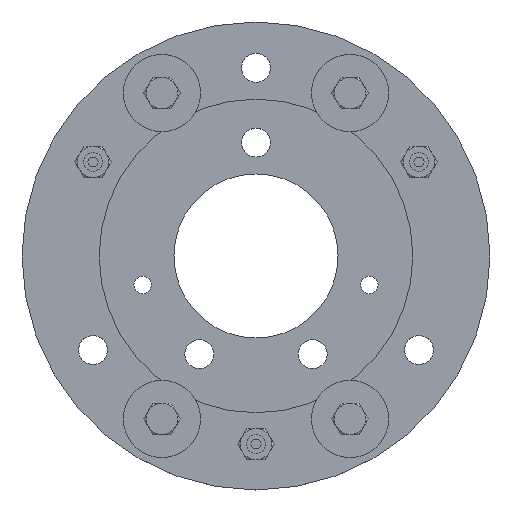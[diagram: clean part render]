
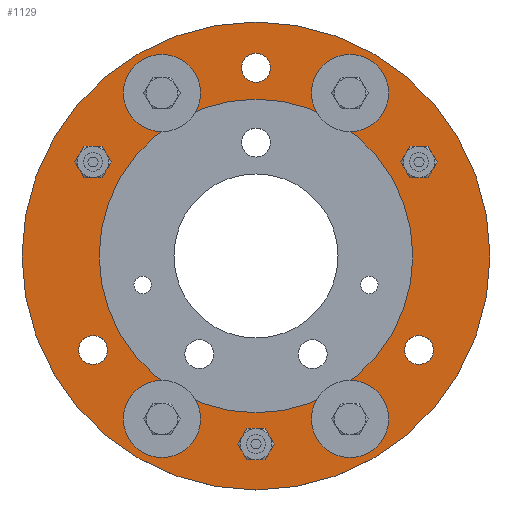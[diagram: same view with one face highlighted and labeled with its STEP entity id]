
A CAD part, top view. The second image highlights one B-rep face of the part: STEP entity #1129.
In plain terms, the highlighted planar face has unit normal (0, 0, 1).
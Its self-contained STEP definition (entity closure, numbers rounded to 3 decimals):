
#611=FACE_BOUND('',#1732,.T.);
#612=FACE_BOUND('',#1733,.T.);
#613=FACE_BOUND('',#1734,.T.);
#614=FACE_BOUND('',#1735,.T.);
#615=FACE_BOUND('',#1736,.T.);
#616=FACE_BOUND('',#1737,.T.);
#617=FACE_BOUND('',#1738,.T.);
#618=FACE_BOUND('',#1739,.T.);
#619=FACE_BOUND('',#1740,.T.);
#620=FACE_BOUND('',#1741,.T.);
#621=FACE_BOUND('',#1742,.T.);
#622=FACE_BOUND('',#1743,.T.);
#862=CIRCLE('',#4202,97.);
#864=CIRCLE('',#4205,60.);
#875=CIRCLE('',#4218,4.);
#876=CIRCLE('',#4219,4.);
#877=CIRCLE('',#4220,4.);
#878=CIRCLE('',#4221,4.);
#879=CIRCLE('',#4222,4.);
#880=CIRCLE('',#4223,4.);
#881=CIRCLE('',#4224,4.);
#882=CIRCLE('',#4225,6.);
#883=CIRCLE('',#4226,6.);
#884=CIRCLE('',#4227,6.);
#1129=ADVANCED_FACE('',(#611,#612,#613,#614,#615,#616,#617,#618,#619,#620,
#621,#622),#1304,.T.);
#1304=PLANE('',#4228);
#1732=EDGE_LOOP('',(#2766));
#1733=EDGE_LOOP('',(#2767));
#1734=EDGE_LOOP('',(#2768));
#1735=EDGE_LOOP('',(#2769));
#1736=EDGE_LOOP('',(#2770));
#1737=EDGE_LOOP('',(#2771));
#1738=EDGE_LOOP('',(#2772));
#1739=EDGE_LOOP('',(#2773));
#1740=EDGE_LOOP('',(#2774));
#1741=EDGE_LOOP('',(#2775));
#1742=EDGE_LOOP('',(#2776));
#1743=EDGE_LOOP('',(#2777));
#2766=ORIENTED_EDGE('',*,*,#3663,.F.);
#2767=ORIENTED_EDGE('',*,*,#3664,.F.);
#2768=ORIENTED_EDGE('',*,*,#3665,.F.);
#2769=ORIENTED_EDGE('',*,*,#3666,.F.);
#2770=ORIENTED_EDGE('',*,*,#3667,.F.);
#2771=ORIENTED_EDGE('',*,*,#3668,.F.);
#2772=ORIENTED_EDGE('',*,*,#3669,.F.);
#2773=ORIENTED_EDGE('',*,*,#3670,.F.);
#2774=ORIENTED_EDGE('',*,*,#3671,.F.);
#2775=ORIENTED_EDGE('',*,*,#3672,.F.);
#2776=ORIENTED_EDGE('',*,*,#3650,.T.);
#2777=ORIENTED_EDGE('',*,*,#3652,.F.);
#3231=VERTEX_POINT('',#6425);
#3233=VERTEX_POINT('',#6430);
#3244=VERTEX_POINT('',#6454);
#3245=VERTEX_POINT('',#6456);
#3246=VERTEX_POINT('',#6458);
#3247=VERTEX_POINT('',#6460);
#3248=VERTEX_POINT('',#6462);
#3249=VERTEX_POINT('',#6464);
#3250=VERTEX_POINT('',#6466);
#3251=VERTEX_POINT('',#6468);
#3252=VERTEX_POINT('',#6470);
#3253=VERTEX_POINT('',#6472);
#3650=EDGE_CURVE('',#3231,#3231,#862,.T.);
#3652=EDGE_CURVE('',#3233,#3233,#864,.T.);
#3663=EDGE_CURVE('',#3244,#3244,#875,.T.);
#3664=EDGE_CURVE('',#3245,#3245,#876,.T.);
#3665=EDGE_CURVE('',#3246,#3246,#877,.T.);
#3666=EDGE_CURVE('',#3247,#3247,#878,.T.);
#3667=EDGE_CURVE('',#3248,#3248,#879,.T.);
#3668=EDGE_CURVE('',#3249,#3249,#880,.T.);
#3669=EDGE_CURVE('',#3250,#3250,#881,.T.);
#3670=EDGE_CURVE('',#3251,#3251,#882,.T.);
#3671=EDGE_CURVE('',#3252,#3252,#883,.T.);
#3672=EDGE_CURVE('',#3253,#3253,#884,.T.);
#4202=AXIS2_PLACEMENT_3D('',#6424,#5067,#5068);
#4205=AXIS2_PLACEMENT_3D('',#6429,#5073,#5074);
#4218=AXIS2_PLACEMENT_3D('',#6453,#5099,#5100);
#4219=AXIS2_PLACEMENT_3D('',#6455,#5101,#5102);
#4220=AXIS2_PLACEMENT_3D('',#6457,#5103,#5104);
#4221=AXIS2_PLACEMENT_3D('',#6459,#5105,#5106);
#4222=AXIS2_PLACEMENT_3D('',#6461,#5107,#5108);
#4223=AXIS2_PLACEMENT_3D('',#6463,#5109,#5110);
#4224=AXIS2_PLACEMENT_3D('',#6465,#5111,#5112);
#4225=AXIS2_PLACEMENT_3D('',#6467,#5113,#5114);
#4226=AXIS2_PLACEMENT_3D('',#6469,#5115,#5116);
#4227=AXIS2_PLACEMENT_3D('',#6471,#5117,#5118);
#4228=AXIS2_PLACEMENT_3D('',#6473,#5119,#5120);
#5067=DIRECTION('',(0.,0.,1.));
#5068=DIRECTION('',(0.,1.,0.));
#5073=DIRECTION('',(0.,0.,1.));
#5074=DIRECTION('',(0.,1.,0.));
#5099=DIRECTION('',(0.,0.,1.));
#5100=DIRECTION('',(0.,1.,0.));
#5101=DIRECTION('',(0.,0.,1.));
#5102=DIRECTION('',(0.,1.,0.));
#5103=DIRECTION('',(0.,0.,1.));
#5104=DIRECTION('',(0.,1.,0.));
#5105=DIRECTION('',(0.,0.,1.));
#5106=DIRECTION('',(0.,1.,0.));
#5107=DIRECTION('',(0.,0.,1.));
#5108=DIRECTION('',(0.,1.,0.));
#5109=DIRECTION('',(0.,0.,1.));
#5110=DIRECTION('',(0.,1.,0.));
#5111=DIRECTION('',(0.,0.,1.));
#5112=DIRECTION('',(0.,1.,0.));
#5113=DIRECTION('',(0.,0.,1.));
#5114=DIRECTION('',(0.,1.,0.));
#5115=DIRECTION('',(0.,0.,1.));
#5116=DIRECTION('',(0.,1.,0.));
#5117=DIRECTION('',(0.,0.,1.));
#5118=DIRECTION('',(0.,1.,0.));
#5119=DIRECTION('',(0.,0.,1.));
#5120=DIRECTION('',(0.,1.,0.));
#6424=CARTESIAN_POINT('',(817.346,-60.21,-289.));
#6425=CARTESIAN_POINT('',(817.346,36.79,-289.));
#6429=CARTESIAN_POINT('',(817.346,-60.21,-289.));
#6430=CARTESIAN_POINT('',(817.346,-0.21,-289.));
#6453=CARTESIAN_POINT('',(778.346,7.34,-289.));
#6454=CARTESIAN_POINT('',(778.346,11.34,-289.));
#6455=CARTESIAN_POINT('',(856.346,7.34,-289.));
#6456=CARTESIAN_POINT('',(856.346,11.34,-289.));
#6457=CARTESIAN_POINT('',(749.796,-21.21,-289.));
#6458=CARTESIAN_POINT('',(749.796,-17.21,-289.));
#6459=CARTESIAN_POINT('',(884.896,-21.21,-289.));
#6460=CARTESIAN_POINT('',(884.896,-17.21,-289.));
#6461=CARTESIAN_POINT('',(778.346,-127.76,-289.));
#6462=CARTESIAN_POINT('',(778.346,-123.76,-289.));
#6463=CARTESIAN_POINT('',(856.346,-127.76,-289.));
#6464=CARTESIAN_POINT('',(856.346,-123.76,-289.));
#6465=CARTESIAN_POINT('',(817.346,-138.21,-289.));
#6466=CARTESIAN_POINT('',(817.346,-134.21,-289.));
#6467=CARTESIAN_POINT('',(817.346,17.79,-289.));
#6468=CARTESIAN_POINT('',(817.346,23.79,-289.));
#6469=CARTESIAN_POINT('',(749.796,-99.21,-289.));
#6470=CARTESIAN_POINT('',(749.796,-93.21,-289.));
#6471=CARTESIAN_POINT('',(884.896,-99.21,-289.));
#6472=CARTESIAN_POINT('',(884.896,-93.21,-289.));
#6473=CARTESIAN_POINT('',(817.346,-60.21,-289.));
